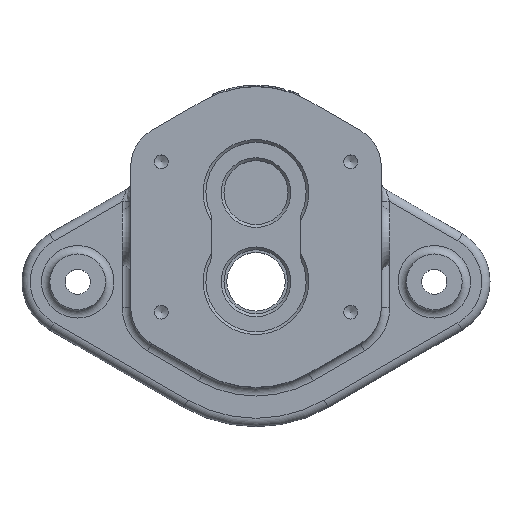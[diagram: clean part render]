
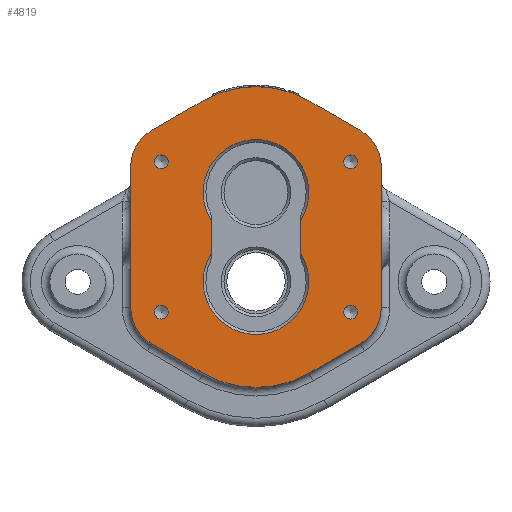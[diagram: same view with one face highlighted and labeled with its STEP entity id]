
A CAD part, top view. The second image highlights one B-rep face of the part: STEP entity #4819.
In plain terms, the highlighted planar face has unit normal (0, 0, 1).
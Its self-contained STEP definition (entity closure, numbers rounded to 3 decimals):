
#355=FACE_BOUND('',#1511,.T.);
#356=FACE_BOUND('',#1512,.T.);
#357=FACE_BOUND('',#1513,.T.);
#358=FACE_BOUND('',#1514,.T.);
#359=FACE_BOUND('',#1515,.T.);
#397=LINE('',#6789,#748);
#398=LINE('',#6793,#749);
#399=LINE('',#6797,#750);
#400=LINE('',#6801,#751);
#401=LINE('',#6805,#752);
#402=LINE('',#6808,#753);
#403=LINE('',#6818,#754);
#404=LINE('',#6821,#755);
#748=VECTOR('',#5573,10.);
#749=VECTOR('',#5576,10.);
#750=VECTOR('',#5579,10.);
#751=VECTOR('',#5582,10.);
#752=VECTOR('',#5585,10.);
#753=VECTOR('',#5588,10.);
#754=VECTOR('',#5597,10.);
#755=VECTOR('',#5600,10.);
#1099=PLANE('',#5136);
#1218=FACE_OUTER_BOUND('',#1510,.T.);
#1510=EDGE_LOOP('',(#3310,#3311,#3312,#3313,#3314,#3315,#3316,#3317,#3318,
#3319,#3320,#3321));
#1511=EDGE_LOOP('',(#3322));
#1512=EDGE_LOOP('',(#3323));
#1513=EDGE_LOOP('',(#3324));
#1514=EDGE_LOOP('',(#3325));
#1515=EDGE_LOOP('',(#3326,#3327,#3328,#3329));
#1843=CIRCLE('',#5134,19.);
#1845=CIRCLE('',#5137,15.);
#1846=CIRCLE('',#5138,38.);
#1847=CIRCLE('',#5139,15.);
#1848=CIRCLE('',#5140,15.);
#1849=CIRCLE('',#5141,38.);
#1850=CIRCLE('',#5142,15.);
#1851=CIRCLE('',#5143,2.459);
#1852=CIRCLE('',#5144,2.459);
#1853=CIRCLE('',#5145,2.459);
#1854=CIRCLE('',#5146,2.459);
#1855=CIRCLE('',#5147,19.);
#2065=VERTEX_POINT('',#6773);
#2066=VERTEX_POINT('',#6777);
#2068=VERTEX_POINT('',#6785);
#2069=VERTEX_POINT('',#6786);
#2070=VERTEX_POINT('',#6788);
#2071=VERTEX_POINT('',#6790);
#2072=VERTEX_POINT('',#6792);
#2073=VERTEX_POINT('',#6794);
#2074=VERTEX_POINT('',#6796);
#2075=VERTEX_POINT('',#6798);
#2076=VERTEX_POINT('',#6800);
#2077=VERTEX_POINT('',#6802);
#2078=VERTEX_POINT('',#6804);
#2079=VERTEX_POINT('',#6806);
#2080=VERTEX_POINT('',#6809);
#2081=VERTEX_POINT('',#6811);
#2082=VERTEX_POINT('',#6813);
#2083=VERTEX_POINT('',#6815);
#2084=VERTEX_POINT('',#6817);
#2085=VERTEX_POINT('',#6819);
#2557=EDGE_CURVE('',#2065,#2066,#1843,.T.);
#2560=EDGE_CURVE('',#2068,#2069,#1845,.T.);
#2561=EDGE_CURVE('',#2068,#2070,#397,.T.);
#2562=EDGE_CURVE('',#2070,#2071,#1846,.T.);
#2563=EDGE_CURVE('',#2071,#2072,#398,.T.);
#2564=EDGE_CURVE('',#2073,#2072,#1847,.T.);
#2565=EDGE_CURVE('',#2073,#2074,#399,.T.);
#2566=EDGE_CURVE('',#2075,#2074,#1848,.T.);
#2567=EDGE_CURVE('',#2075,#2076,#400,.T.);
#2568=EDGE_CURVE('',#2076,#2077,#1849,.T.);
#2569=EDGE_CURVE('',#2077,#2078,#401,.T.);
#2570=EDGE_CURVE('',#2079,#2078,#1850,.T.);
#2571=EDGE_CURVE('',#2079,#2069,#402,.T.);
#2572=EDGE_CURVE('',#2080,#2080,#1851,.T.);
#2573=EDGE_CURVE('',#2081,#2081,#1852,.T.);
#2574=EDGE_CURVE('',#2082,#2082,#1853,.T.);
#2575=EDGE_CURVE('',#2083,#2083,#1854,.T.);
#2576=EDGE_CURVE('',#2065,#2084,#403,.T.);
#2577=EDGE_CURVE('',#2085,#2084,#1855,.T.);
#2578=EDGE_CURVE('',#2085,#2066,#404,.T.);
#3310=ORIENTED_EDGE('',*,*,#2560,.F.);
#3311=ORIENTED_EDGE('',*,*,#2561,.T.);
#3312=ORIENTED_EDGE('',*,*,#2562,.T.);
#3313=ORIENTED_EDGE('',*,*,#2563,.T.);
#3314=ORIENTED_EDGE('',*,*,#2564,.F.);
#3315=ORIENTED_EDGE('',*,*,#2565,.T.);
#3316=ORIENTED_EDGE('',*,*,#2566,.F.);
#3317=ORIENTED_EDGE('',*,*,#2567,.T.);
#3318=ORIENTED_EDGE('',*,*,#2568,.T.);
#3319=ORIENTED_EDGE('',*,*,#2569,.T.);
#3320=ORIENTED_EDGE('',*,*,#2570,.F.);
#3321=ORIENTED_EDGE('',*,*,#2571,.T.);
#3322=ORIENTED_EDGE('',*,*,#2572,.T.);
#3323=ORIENTED_EDGE('',*,*,#2573,.T.);
#3324=ORIENTED_EDGE('',*,*,#2574,.T.);
#3325=ORIENTED_EDGE('',*,*,#2575,.T.);
#3326=ORIENTED_EDGE('',*,*,#2557,.F.);
#3327=ORIENTED_EDGE('',*,*,#2576,.T.);
#3328=ORIENTED_EDGE('',*,*,#2577,.F.);
#3329=ORIENTED_EDGE('',*,*,#2578,.T.);
#4819=ADVANCED_FACE('',(#1218,#355,#356,#357,#358,#359),#1099,.T.);
#5134=AXIS2_PLACEMENT_3D('',#6778,#5565,#5566);
#5136=AXIS2_PLACEMENT_3D('',#6784,#5569,#5570);
#5137=AXIS2_PLACEMENT_3D('',#6787,#5571,#5572);
#5138=AXIS2_PLACEMENT_3D('',#6791,#5574,#5575);
#5139=AXIS2_PLACEMENT_3D('',#6795,#5577,#5578);
#5140=AXIS2_PLACEMENT_3D('',#6799,#5580,#5581);
#5141=AXIS2_PLACEMENT_3D('',#6803,#5583,#5584);
#5142=AXIS2_PLACEMENT_3D('',#6807,#5586,#5587);
#5143=AXIS2_PLACEMENT_3D('',#6810,#5589,#5590);
#5144=AXIS2_PLACEMENT_3D('',#6812,#5591,#5592);
#5145=AXIS2_PLACEMENT_3D('',#6814,#5593,#5594);
#5146=AXIS2_PLACEMENT_3D('',#6816,#5595,#5596);
#5147=AXIS2_PLACEMENT_3D('',#6820,#5598,#5599);
#5565=DIRECTION('center_axis',(0.,0.,1.));
#5566=DIRECTION('ref_axis',(0.889,-0.458,0.));
#5569=DIRECTION('center_axis',(0.,0.,1.));
#5570=DIRECTION('ref_axis',(1.,0.,0.));
#5571=DIRECTION('center_axis',(0.,0.,-1.));
#5572=DIRECTION('ref_axis',(-0.866,-0.5,0.));
#5573=DIRECTION('',(0.866,-0.5,0.));
#5574=DIRECTION('center_axis',(0.,0.,1.));
#5575=DIRECTION('ref_axis',(-0.5,-0.866,0.));
#5576=DIRECTION('',(0.866,0.5,0.));
#5577=DIRECTION('center_axis',(0.,0.,-1.));
#5578=DIRECTION('ref_axis',(0.866,-0.5,0.));
#5579=DIRECTION('',(0.,1.,0.));
#5580=DIRECTION('center_axis',(0.,0.,-1.));
#5581=DIRECTION('ref_axis',(0.866,0.5,0.));
#5582=DIRECTION('',(-0.866,0.5,0.));
#5583=DIRECTION('center_axis',(0.,0.,1.));
#5584=DIRECTION('ref_axis',(0.5,0.866,0.));
#5585=DIRECTION('',(-0.866,-0.5,0.));
#5586=DIRECTION('center_axis',(0.,0.,-1.));
#5587=DIRECTION('ref_axis',(-0.866,0.5,0.));
#5588=DIRECTION('',(0.,-1.,0.));
#5589=DIRECTION('center_axis',(0.,0.,-1.));
#5590=DIRECTION('ref_axis',(1.,0.,0.));
#5591=DIRECTION('center_axis',(0.,0.,-1.));
#5592=DIRECTION('ref_axis',(1.,0.,0.));
#5593=DIRECTION('center_axis',(0.,0.,-1.));
#5594=DIRECTION('ref_axis',(1.,0.,0.));
#5595=DIRECTION('center_axis',(0.,0.,-1.));
#5596=DIRECTION('ref_axis',(1.,0.,0.));
#5597=DIRECTION('',(0.,1.,0.));
#5598=DIRECTION('center_axis',(0.,0.,1.));
#5599=DIRECTION('ref_axis',(-0.889,0.458,0.));
#5600=DIRECTION('',(0.,-1.,0.));
#6773=CARTESIAN_POINT('',(-16.,10.247,31.));
#6777=CARTESIAN_POINT('',(16.,10.247,31.));
#6778=CARTESIAN_POINT('Origin',(0.,0.,31.));
#6784=CARTESIAN_POINT('Origin',(0.,16.,31.));
#6785=CARTESIAN_POINT('',(-37.5,-22.228,31.));
#6786=CARTESIAN_POINT('',(-45.,-9.238,31.));
#6787=CARTESIAN_POINT('Origin',(-30.,-9.238,31.));
#6788=CARTESIAN_POINT('',(-19.,-32.909,31.));
#6789=CARTESIAN_POINT('',(-45.,-17.898,31.));
#6790=CARTESIAN_POINT('',(19.,-32.909,31.));
#6791=CARTESIAN_POINT('Origin',(0.,0.,31.));
#6792=CARTESIAN_POINT('',(37.5,-22.228,31.));
#6793=CARTESIAN_POINT('',(19.,-32.909,31.));
#6794=CARTESIAN_POINT('',(45.,-9.238,31.));
#6795=CARTESIAN_POINT('Origin',(30.,-9.238,31.));
#6796=CARTESIAN_POINT('',(45.,41.238,31.));
#6797=CARTESIAN_POINT('',(45.,-17.898,31.));
#6798=CARTESIAN_POINT('',(37.5,54.228,31.));
#6799=CARTESIAN_POINT('Origin',(30.,41.238,31.));
#6800=CARTESIAN_POINT('',(19.,64.909,31.));
#6801=CARTESIAN_POINT('',(45.,49.898,31.));
#6802=CARTESIAN_POINT('',(-19.,64.909,31.));
#6803=CARTESIAN_POINT('Origin',(0.,32.,31.));
#6804=CARTESIAN_POINT('',(-37.5,54.228,31.));
#6805=CARTESIAN_POINT('',(-19.,64.909,31.));
#6806=CARTESIAN_POINT('',(-45.,41.238,31.));
#6807=CARTESIAN_POINT('Origin',(-30.,41.238,31.));
#6808=CARTESIAN_POINT('',(-45.,49.898,31.));
#6809=CARTESIAN_POINT('',(-36.459,43.,31.));
#6810=CARTESIAN_POINT('Origin',(-34.,43.,31.));
#6811=CARTESIAN_POINT('',(31.542,43.,31.));
#6812=CARTESIAN_POINT('Origin',(34.,43.,31.));
#6813=CARTESIAN_POINT('',(31.542,-11.,31.));
#6814=CARTESIAN_POINT('Origin',(34.,-11.,31.));
#6815=CARTESIAN_POINT('',(-36.459,-11.,31.));
#6816=CARTESIAN_POINT('Origin',(-34.,-11.,31.));
#6817=CARTESIAN_POINT('',(-16.,21.753,31.));
#6818=CARTESIAN_POINT('',(-16.,8.246,31.));
#6819=CARTESIAN_POINT('',(16.,21.753,31.));
#6820=CARTESIAN_POINT('Origin',(0.,32.,31.));
#6821=CARTESIAN_POINT('',(16.,23.754,31.));
